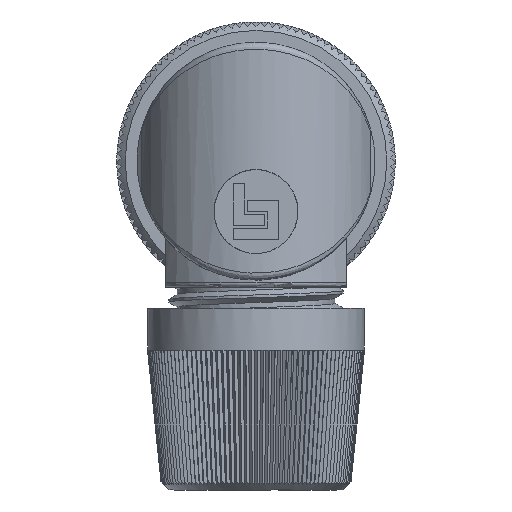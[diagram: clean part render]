
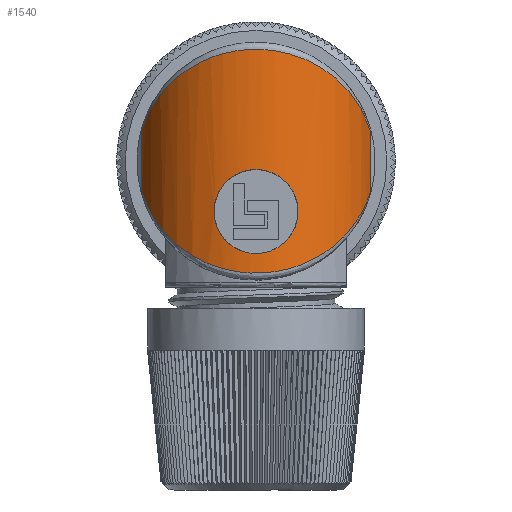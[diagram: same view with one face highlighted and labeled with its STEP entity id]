
A CAD part, left-side view. The second image highlights one B-rep face of the part: STEP entity #1540.
In plain terms, the highlighted cylindrical face has radius 8.5 mm (diameter 17 mm), a partial arc.
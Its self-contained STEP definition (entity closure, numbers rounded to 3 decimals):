
#178=ELLIPSE('',#16690,11.673,8.5);
#179=ELLIPSE('',#16691,11.673,8.5);
#1474=FACE_BOUND('',#3443,.T.);
#1475=FACE_BOUND('',#3444,.T.);
#1540=ADVANCED_FACE('',(#1474,#1475),#2469,.T.);
#2469=CYLINDRICAL_SURFACE('',#16692,8.5);
#3443=EDGE_LOOP('',(#5251));
#3444=EDGE_LOOP('',(#5252,#5253,#5254,#5255));
#4415=B_SPLINE_CURVE_WITH_KNOTS('',3,(#23022,#23023,#23024,#23025,#23026,
#23027,#23028,#23029,#23030,#23031,#23032,#23033,#23034,#23035,#23036,#23037,
#23038,#23039,#23040,#23041,#23042,#23043,#23044,#23045,#23046,#23047,#23048,
#23049,#23050,#23051,#23052,#23053,#23054,#23055,#23056,#23057,#23058,#23059,
#23060,#23061,#23062,#23063,#23064,#23065,#23066,#23067,#23068,#23069,#23070,
#23071,#23072,#23073,#23074,#23075,#23076,#23077,#23078,#23079),
 .UNSPECIFIED.,.T.,.F.,(1,3,3,3,3,3,3,3,3,3,3,3,3,3,3,3,3,3,3,3,3,1),(-0.055,
0.,0.052,0.103,0.156,0.211,
0.264,0.314,0.365,0.419,
0.474,0.526,0.576,0.628,
0.682,0.737,0.788,0.838,
0.89,0.945,1.,1.052),.UNSPECIFIED.);
#5251=ORIENTED_EDGE('',*,*,#11786,.T.);
#5252=ORIENTED_EDGE('',*,*,#11780,.T.);
#5253=ORIENTED_EDGE('',*,*,#11787,.T.);
#5254=ORIENTED_EDGE('',*,*,#11773,.T.);
#5255=ORIENTED_EDGE('',*,*,#11788,.T.);
#10169=VERTEX_POINT('',#22975);
#10170=VERTEX_POINT('',#22977);
#10171=VERTEX_POINT('',#23002);
#10172=VERTEX_POINT('',#23004);
#10173=VERTEX_POINT('',#23080);
#11773=EDGE_CURVE('',#10170,#10169,#14229,.T.);
#11780=EDGE_CURVE('',#10172,#10171,#14234,.T.);
#11786=EDGE_CURVE('',#10173,#10173,#4415,.T.);
#11787=EDGE_CURVE('',#10171,#10170,#178,.T.);
#11788=EDGE_CURVE('',#10169,#10172,#179,.T.);
#14229=LINE('',#22976,#15460);
#14234=LINE('',#23003,#15465);
#15460=VECTOR('',#18198,1.);
#15465=VECTOR('',#18215,1.);
#16690=AXIS2_PLACEMENT_3D('',#23081,#18232,#18233);
#16691=AXIS2_PLACEMENT_3D('',#23082,#18234,#18235);
#16692=AXIS2_PLACEMENT_3D('',#23083,#18236,#18237);
#18198=DIRECTION('',(0.,0.,-1.));
#18215=DIRECTION('',(0.,0.,1.));
#18232=DIRECTION('',(-0.685,0.,-0.728));
#18233=DIRECTION('',(-0.728,0.,0.685));
#18234=DIRECTION('',(-0.685,0.,0.728));
#18235=DIRECTION('',(0.728,0.,0.685));
#18236=DIRECTION('',(0.,0.,1.));
#18237=DIRECTION('',(-1.,0.,0.));
#22975=CARTESIAN_POINT('',(-5.431,8.167,5.608));
#22976=CARTESIAN_POINT('',(-5.431,8.167,8.325));
#22977=CARTESIAN_POINT('',(-5.431,8.167,10.042));
#23002=CARTESIAN_POINT('',(-5.431,-8.167,10.042));
#23003=CARTESIAN_POINT('',(-5.431,-8.167,8.325));
#23004=CARTESIAN_POINT('',(-5.431,-8.167,5.608));
#23022=CARTESIAN_POINT('',(-11.575,0.,7.225));
#23023=CARTESIAN_POINT('',(-11.575,-0.325,7.225));
#23024=CARTESIAN_POINT('',(-11.555,-0.654,7.171));
#23025=CARTESIAN_POINT('',(-11.521,-0.96,7.067));
#23026=CARTESIAN_POINT('',(-11.486,-1.265,6.964));
#23027=CARTESIAN_POINT('',(-11.436,-1.556,6.81));
#23028=CARTESIAN_POINT('',(-11.38,-1.81,6.617));
#23029=CARTESIAN_POINT('',(-11.323,-2.074,6.418));
#23030=CARTESIAN_POINT('',(-11.258,-2.306,6.172));
#23031=CARTESIAN_POINT('',(-11.202,-2.491,5.897));
#23032=CARTESIAN_POINT('',(-11.144,-2.681,5.614));
#23033=CARTESIAN_POINT('',(-11.092,-2.825,5.291));
#23034=CARTESIAN_POINT('',(-11.062,-2.909,4.957));
#23035=CARTESIAN_POINT('',(-11.032,-2.99,4.635));
#23036=CARTESIAN_POINT('',(-11.021,-3.018,4.292));
#23037=CARTESIAN_POINT('',(-11.032,-2.988,3.961));
#23038=CARTESIAN_POINT('',(-11.043,-2.96,3.646));
#23039=CARTESIAN_POINT('',(-11.073,-2.881,3.332));
#23040=CARTESIAN_POINT('',(-11.115,-2.758,3.044));
#23041=CARTESIAN_POINT('',(-11.158,-2.632,2.751));
#23042=CARTESIAN_POINT('',(-11.215,-2.458,2.477));
#23043=CARTESIAN_POINT('',(-11.272,-2.249,2.239));
#23044=CARTESIAN_POINT('',(-11.333,-2.027,1.988));
#23045=CARTESIAN_POINT('',(-11.396,-1.759,1.772));
#23046=CARTESIAN_POINT('',(-11.448,-1.465,1.607));
#23047=CARTESIAN_POINT('',(-11.5,-1.168,1.441));
#23048=CARTESIAN_POINT('',(-11.541,-0.835,1.323));
#23049=CARTESIAN_POINT('',(-11.561,-0.495,1.266));
#23050=CARTESIAN_POINT('',(-11.579,-0.172,1.212));
#23051=CARTESIAN_POINT('',(-11.58,0.166,1.212));
#23052=CARTESIAN_POINT('',(-11.561,0.489,1.265));
#23053=CARTESIAN_POINT('',(-11.543,0.802,1.317));
#23054=CARTESIAN_POINT('',(-11.507,1.109,1.42));
#23055=CARTESIAN_POINT('',(-11.461,1.387,1.565));
#23056=CARTESIAN_POINT('',(-11.414,1.673,1.714));
#23057=CARTESIAN_POINT('',(-11.355,1.937,1.912));
#23058=CARTESIAN_POINT('',(-11.296,2.16,2.143));
#23059=CARTESIAN_POINT('',(-11.234,2.394,2.386));
#23060=CARTESIAN_POINT('',(-11.172,2.59,2.673));
#23061=CARTESIAN_POINT('',(-11.125,2.73,2.982));
#23062=CARTESIAN_POINT('',(-11.077,2.871,3.291));
#23063=CARTESIAN_POINT('',(-11.043,2.961,3.632));
#23064=CARTESIAN_POINT('',(-11.032,2.989,3.973));
#23065=CARTESIAN_POINT('',(-11.022,3.017,4.295));
#23066=CARTESIAN_POINT('',(-11.032,2.99,4.627));
#23067=CARTESIAN_POINT('',(-11.06,2.914,4.94));
#23068=CARTESIAN_POINT('',(-11.087,2.839,5.245));
#23069=CARTESIAN_POINT('',(-11.132,2.714,5.541));
#23070=CARTESIAN_POINT('',(-11.184,2.55,5.805));
#23071=CARTESIAN_POINT('',(-11.238,2.378,6.083));
#23072=CARTESIAN_POINT('',(-11.3,2.158,6.334));
#23073=CARTESIAN_POINT('',(-11.358,1.907,6.541));
#23074=CARTESIAN_POINT('',(-11.419,1.644,6.758));
#23075=CARTESIAN_POINT('',(-11.475,1.338,6.932));
#23076=CARTESIAN_POINT('',(-11.514,1.015,7.048));
#23077=CARTESIAN_POINT('',(-11.553,0.693,7.164));
#23078=CARTESIAN_POINT('',(-11.575,0.344,7.225));
#23079=CARTESIAN_POINT('',(-11.575,0.,7.225));
#23080=CARTESIAN_POINT('',(-11.575,0.,7.225));
#23081=CARTESIAN_POINT('',(-3.075,0.,7.825));
#23082=CARTESIAN_POINT('',(-3.075,0.,7.825));
#23083=CARTESIAN_POINT('',(-3.075,0.,-1.675));
